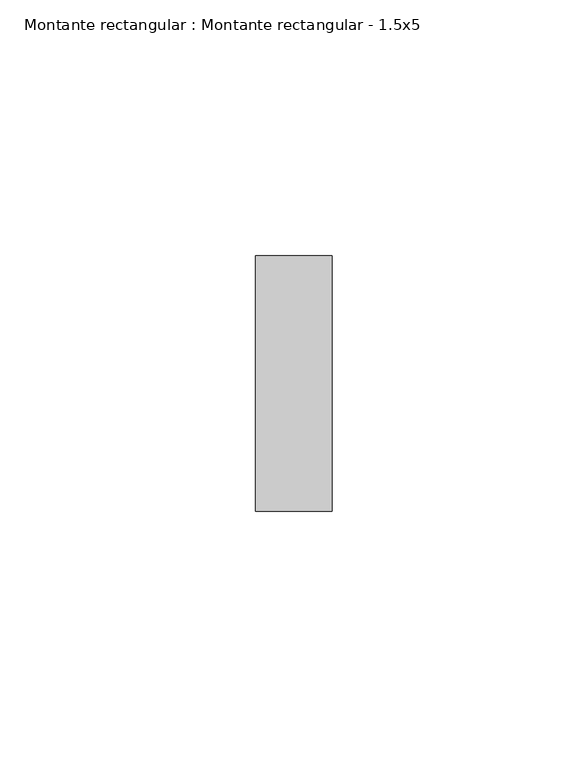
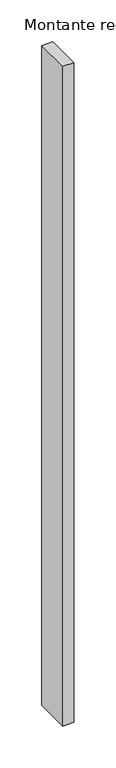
"""IFC4 building model written with IfcOpenShell, lengths in millimetres: member geometry, Montante rectangular : Montante rectangular - 1.5x5."""

import ifcopenshell
import ifcopenshell.guid

model = None  # the IFC model being written
_history = None  # IfcOwnerHistory: only IFC2X3 demands one
_inside = {}  # id of a spatial element -> (the spatial element, [elements in it])
_under = {}  # id of a project, library or spatial element -> (it, [spatial elements below it])
_declared = {}  # id of a project -> (the project, [libraries it declares])
_typed = {}  # id of a type object -> (the type object, [elements of that type])
_made_of = {}  # id of a material, layer set ... -> (it, [elements and type objects made of it])


def new_model(schema):
    """Start an empty IFC model of exactly this schema.

    Asked for "IFC4X3", IfcOpenShell would pick the latest addendum, in which some entities
    have other attributes; the version numbers below select the first issue.
    IFC2X3 requires an IfcOwnerHistory on every rooted entity: one is made here for all.
    """
    global model, _history
    if schema == "IFC4X3":
        model = ifcopenshell.file(schema_version=(4, 3, 0, 0))
    else:
        model = ifcopenshell.file(schema=schema)
    _inside.clear()
    _under.clear()
    _declared.clear()
    _typed.clear()
    _made_of.clear()
    _history = None
    if model.schema == "IFC2X3":
        org = make("IfcOrganization", Name="unknown")
        user = make(
            "IfcPersonAndOrganization",
            ThePerson=make("IfcPerson", FamilyName="unknown"),
            TheOrganization=org,
        )
        app = make(
            "IfcApplication",
            ApplicationDeveloper=org,
            Version="unknown",
            ApplicationFullName="unknown",
            ApplicationIdentifier="unknown",
        )
        _history = make(
            "IfcOwnerHistory",
            OwningUser=user,
            OwningApplication=app,
            ChangeAction="ADDED",
            CreationDate=0,
        )
    return model


def make(cls, **values):
    """One entity of the class cls with the attributes given. An attribute that is None is left unset."""
    return model.create_entity(
        cls, **{name: value for name, value in values.items() if value is not None}
    )


def rooted(cls, **values):
    """An entity with a GlobalId (a new one), such as an element, a storey or a relation."""
    return make(cls, GlobalId=ifcopenshell.guid.new(), OwnerHistory=_history, **values)


def si_unit(unit_type, name, prefix=None):
    """IfcSIUnit, for example si_unit("LENGTHUNIT", "METRE", prefix="MILLI")."""
    return make("IfcSIUnit", UnitType=unit_type, Prefix=prefix, Name=name)


def assignment(units):
    """IfcUnitAssignment: the units of a project."""
    return None if units is None else make("IfcUnitAssignment", Units=units)


def point(xyz):
    """IfcCartesianPoint."""
    return None if xyz is None else make("IfcCartesianPoint", Coordinates=xyz)


def direction(xyz):
    """IfcDirection."""
    return None if xyz is None else make("IfcDirection", DirectionRatios=xyz)


def frame(location, z_axis=None, x_axis=None):
    """IfcAxis2Placement3D, a coordinate frame: its origin and axes. An axis left out is left unset."""
    return make(
        "IfcAxis2Placement3D",
        Location=point(location),
        Axis=direction(z_axis),
        RefDirection=direction(x_axis),
    )


def origin():
    """The frame at (0, 0, 0) with its axes left unset."""
    return frame((0.0, 0.0, 0.0))


def place(relative_to, where):
    """IfcLocalPlacement: puts the frame where relative to a parent placement (None: the world)."""
    return make(
        "IfcLocalPlacement", PlacementRelTo=relative_to, RelativePlacement=where
    )


def context(
    kind, dimensions, precision=None, world=None, true_north=None, identifier=None
):
    """IfcGeometricRepresentationContext, for example the 3D "Model" context."""
    return make(
        "IfcGeometricRepresentationContext",
        ContextIdentifier=identifier,
        ContextType=kind,
        CoordinateSpaceDimension=dimensions,
        Precision=precision,
        WorldCoordinateSystem=world,
        TrueNorth=true_north,
    )


def project(units=None, contexts=None):
    """IfcProject with its units and contexts."""
    return rooted(
        "IfcProject",
        Name="project",
        RepresentationContexts=contexts,
        UnitsInContext=assignment(units),
    )


def spatial(cls, under=None, at=None, **own):
    """A site, building, storey or space (cls), placed at a placement, below another one or the project."""
    s = rooted(cls, ObjectPlacement=at, **own)
    if under is not None:
        _under.setdefault(under.id(), (under, []))[1].append(s)
    return s


def polyline(points):
    """IfcPolyline through the points."""
    return make("IfcPolyline", Points=[point(p) for p in points])


def outline(outer, holes=None, kind="AREA"):
    """IfcArbitraryClosedProfileDef: a profile drawn as a closed curve; with holes, ...WithVoids."""
    if holes is None:
        return make("IfcArbitraryClosedProfileDef", ProfileType=kind, OuterCurve=outer)
    return make(
        "IfcArbitraryProfileDefWithVoids",
        ProfileType=kind,
        OuterCurve=outer,
        InnerCurves=holes,
    )


def extrude(swept, where, along, depth):
    """IfcExtrudedAreaSolid: the profile swept, set in the frame where, extruded along a direction by depth."""
    return make(
        "IfcExtrudedAreaSolid",
        SweptArea=swept,
        Position=where,
        ExtrudedDirection=direction(along),
        Depth=depth,
    )


def shape(context_of_items, identifier, shape_type, items):
    """IfcShapeRepresentation: the items that make up one representation, for example the "Body"."""
    return make(
        "IfcShapeRepresentation",
        ContextOfItems=context_of_items,
        RepresentationIdentifier=identifier,
        RepresentationType=shape_type,
        Items=items,
    )


def source(mapping_origin, context_of_items, identifier, shape_type, items):
    """IfcRepresentationMap: a shape defined once, which mapped items show again and again."""
    return make(
        "IfcRepresentationMap",
        MappingOrigin=mapping_origin,
        MappedRepresentation=shape(context_of_items, identifier, shape_type, items),
    )


def transform(
    local_origin,
    x_axis=None,
    y_axis=None,
    z_axis=None,
    scale=None,
    scale2=None,
    scale3=None,
    uniform=True,
):
    """IfcCartesianTransformationOperator3D, or its non-uniform kind. x_axis, y_axis, z_axis: its Axis1, 2, 3."""
    if uniform:
        return make(
            "IfcCartesianTransformationOperator3D",
            Axis1=direction(x_axis),
            Axis2=direction(y_axis),
            LocalOrigin=point(local_origin),
            Scale=scale,
            Axis3=direction(z_axis),
        )
    return make(
        "IfcCartesianTransformationOperator3DnonUniform",
        Axis1=direction(x_axis),
        Axis2=direction(y_axis),
        LocalOrigin=point(local_origin),
        Scale=scale,
        Axis3=direction(z_axis),
        Scale2=scale2,
        Scale3=scale3,
    )


def mapped(mapping_source, mapping_target):
    """IfcMappedItem: shows the shape of a source again, moved by a transform."""
    return make(
        "IfcMappedItem", MappingSource=mapping_source, MappingTarget=mapping_target
    )


def made_of(thing, what):
    """Note that an element or type object is made of a material, layer set ...; save() writes the relation."""
    if what is not None:
        _made_of.setdefault(what.id(), (what, []))[1].append(thing)
    return thing


def element(
    cls,
    number,
    at=None,
    inside=None,
    cuts=None,
    type_object=None,
    material=None,
    context=None,
    identifier="Body",
    shape_type=None,
    held_by="IfcProductDefinitionShape",
    body=None,
    shapes=None,
    **own,
):
    """One element of the class cls, such as IfcWall. Its Tag is "e" and its number.

    at: its placement. inside: the storey or other place that contains it. cuts: it is an
    opening in that element (IfcRelVoidsElement). A single representation is given by context,
    identifier, shape_type and body (its items); several are given by shapes. held_by: the class
    of the entity that holds the representations. save() writes the other relations.
    """
    e = rooted(cls, Tag="e%d" % number, ObjectPlacement=at, **own)
    if body is not None:
        shapes = [shape(context, identifier, shape_type, body)]
    if shapes is not None:
        e.Representation = make(held_by, Representations=shapes)
    if inside is not None:
        _inside.setdefault(inside.id(), (inside, []))[1].append(e)
    if cuts is not None:
        rooted(
            "IfcRelVoidsElement", RelatingBuildingElement=cuts, RelatedOpeningElement=e
        )
    if type_object is not None:
        _typed.setdefault(type_object.id(), (type_object, []))[1].append(e)
    return made_of(e, material)


def aggregate(whole, parts):
    """IfcRelAggregates: a whole, such as a stair, and the parts it consists of."""
    return rooted("IfcRelAggregates", RelatingObject=whole, RelatedObjects=parts)


def save(model, path):
    """Write the relations noted so far, then the file.

    IfcRelAggregates (storeys below a building ...), IfcRelContainedInSpatialStructure (elements
    in a storey), IfcRelDefinesByType, IfcRelAssociatesMaterial and IfcRelDeclares: one each for
    every whole, place, type object, material and project.
    """
    for whole, parts in _under.values():
        aggregate(whole, parts)
    for where, things in _inside.values():
        rooted(
            "IfcRelContainedInSpatialStructure",
            RelatedElements=things,
            RelatingStructure=where,
        )
    for kind, things in _typed.values():
        rooted("IfcRelDefinesByType", RelatedObjects=things, RelatingType=kind)
    for what, things in _made_of.values():
        rooted("IfcRelAssociatesMaterial", RelatedObjects=things, RelatingMaterial=what)
    for by, libraries in _declared.values():
        rooted("IfcRelDeclares", RelatingContext=by, RelatedDefinitions=libraries)
    model.write(path)


def montante_rectangular_montante_rectangular_1_5x5_ea551b8a(model_context):
    return source(origin(), model_context, "Body", "SweptSolid", [
        extrude(outline(polyline([(7.5, 25.0), (7.5, -25.0), (-7.5, -25.0), (-7.5, 25.0), (7.5, 25.0)])), frame((0.0, 0.0, -960.0), z_axis=(0.0, 0.0, 1.0), x_axis=(1.0, 0.0, 0.0)), (0.0, 0.0, 1.0), 960.0),
    ])


if __name__ == "__main__":
    model = new_model("IFC4")
    model_context = context("Model", 3, world=origin())
    ifc_project = project(units=[si_unit("LENGTHUNIT", "METRE", prefix="MILLI")], contexts=[model_context])
    site = spatial("IfcSite", under=ifc_project)
    building = spatial("IfcBuilding", under=site)
    placement = place(None, origin())
    montante_rectangular_montante_rectangular_1_5x5_shape = montante_rectangular_montante_rectangular_1_5x5_ea551b8a(model_context)
    element("IfcMember", 1, ObjectType="Montante rectangular : Montante rectangular - 1.5x5", at=placement, inside=building, context=model_context, shape_type="MappedRepresentation", body=[
        mapped(montante_rectangular_montante_rectangular_1_5x5_shape, transform((0.0, 0.0, 0.0), x_axis=(1.0, 0.0, 0.0), y_axis=(0.0, 1.0, 0.0), z_axis=(0.0, 0.0, 1.0))),
    ])
    save(model, "model.ifc")
